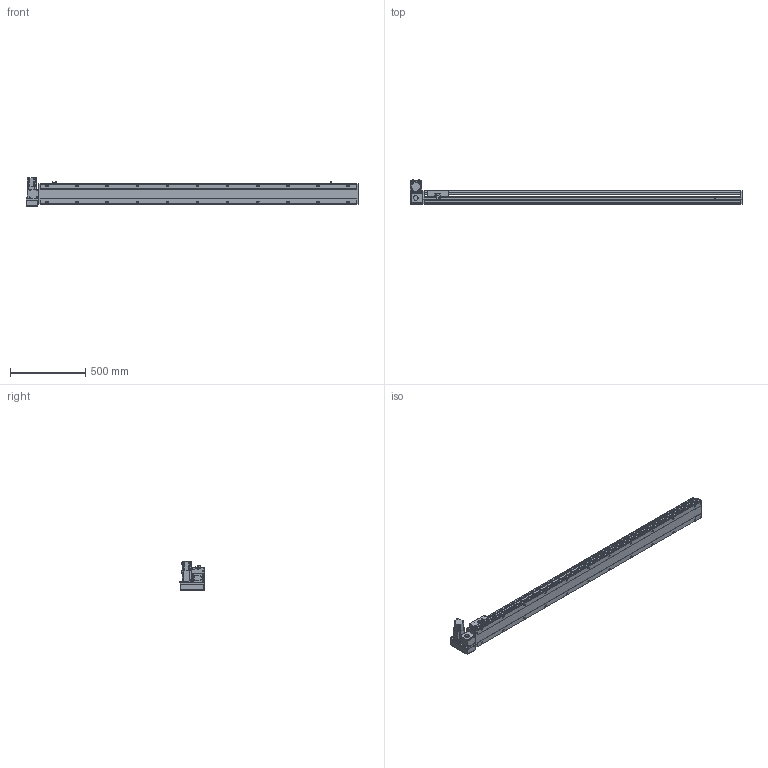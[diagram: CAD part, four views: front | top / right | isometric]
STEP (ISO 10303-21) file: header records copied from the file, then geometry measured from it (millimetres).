
FILE_DESCRIPTION(/* description */ ('STEP AP214'),/* implementation_level */ '2;1');
FILE_NAME(/* name */ 'PBS140S-P40-S1850-LU-T40-C1-N(0)',/* time_stamp */ '2022-06-09T02:35:32+02:00',/* author */ ('License CC BY-ND 4.0'),/* organization */ ('CADENAS'),/* preprocessor_version */ 'ST-DEVELOPER v18.102',/* originating_system */ 'PARTsolutions',/* authorisation */ ' ');
FILE_SCHEMA (('AUTOMOTIVE_DESIGN {1 0 10303 214 3 1 1}'));
Length unit declared in the file: millimetre
Products named in the file (7): PBS140S-P40-S1850-LU-T40-C1-N(0); PBS140S_sensor; PBS140S_plant; PBS140S_sliser; T40-p1; PBS140ST-LU_motors; PBS140S-S1850()_body
Assembly tree (8 placements, depth 2):
  PBS140S-P40-S1850-LU-T40-C1-N(0)
    PBS140S_sensor  x3
    PBS140S_plant
    PBS140S_sliser
    T40-p1
    PBS140ST-LU_motors
    PBS140S-S1850()_body
Bounding box: 2204 x 162.5 x 189.7 mm (x, y, z)
Volume: 10911535.3 mm3; surface area: 1851906.8 mm2
Topology: 8 solids, 8 shells, 1147 faces, 3031 edges, 1983 vertices
Faces by surface type: plane 720, cylinder 369, cone 48, sphere 8, torus 2
Full cylindrical faces by diameter (mm): 3.242 x4, 4 x2, 4.134 x4, 4.4 x8, 4.5 x2, 4.8 x4, 4.917 x30, 5.5 x7, 6 x2, 7 x24, 7.5 x8, 8 x12, 8.5 x4, 10.5 x22, 14 x1, 30 x2, 50 x2
Entity records: 32870 total; most frequent: CARTESIAN_POINT 6152, DIRECTION 5558, ORIENTED_EDGE 5242, EDGE_CURVE 2621, AXIS2_PLACEMENT_3D 1949, VERTEX_POINT 1825, LINE 1660, VECTOR 1660
